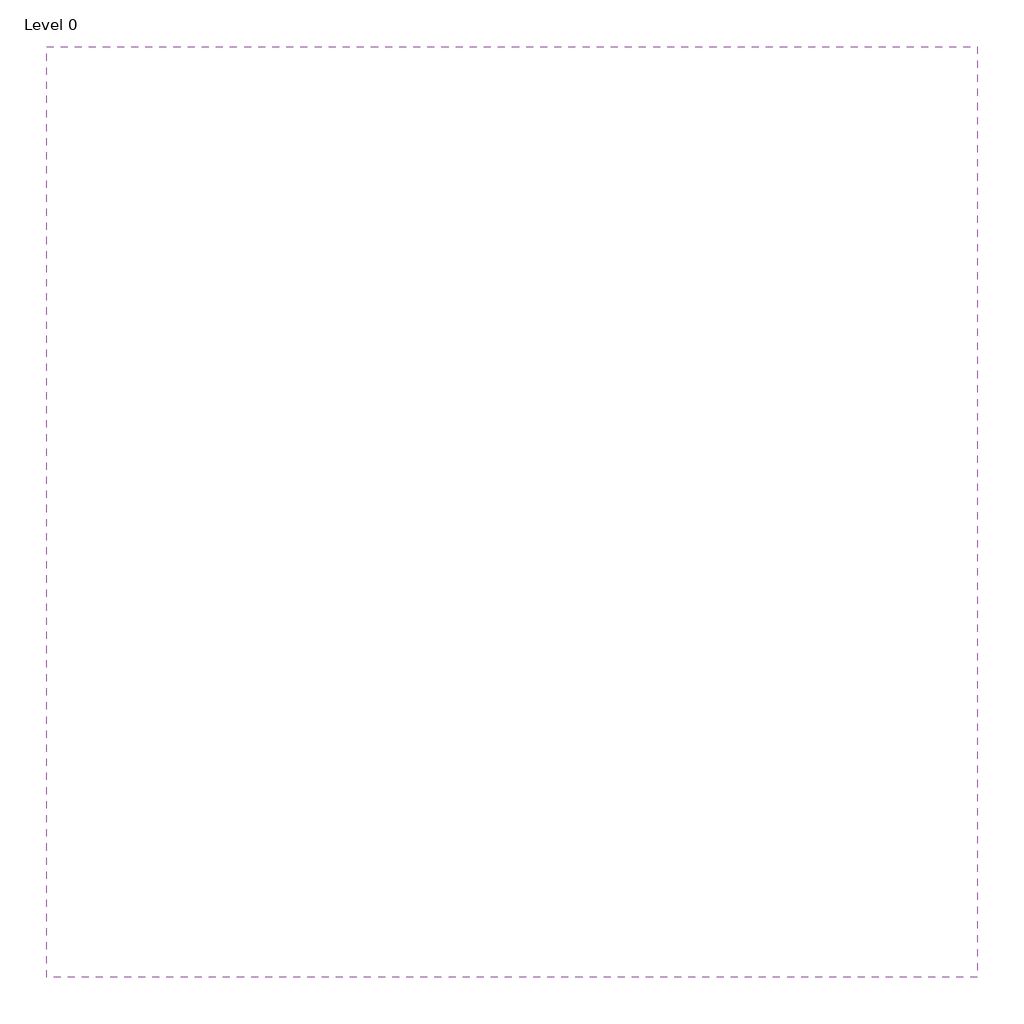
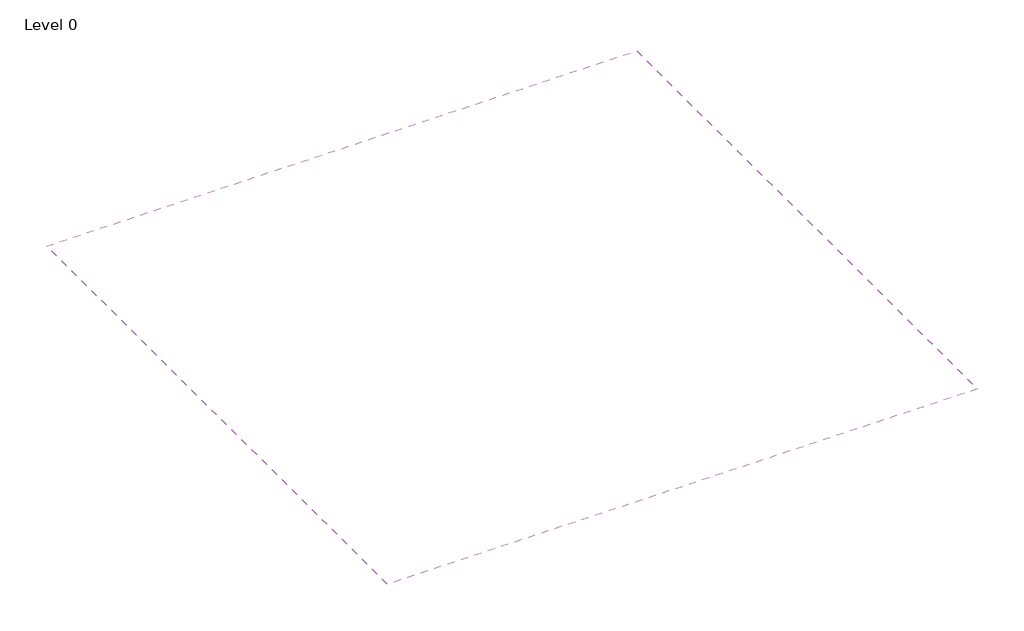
# One storey: 1 covering.
"""IFC4 building model written with IfcOpenShell, lengths in millimetres."""

from ifc_helpers import new_model, si_unit, frame, origin, place, context, project, spatial, polyline, outline, extrude, element, save

model = new_model("IFC4")

# Units and contexts
model_context = context("Model", 3, world=origin())
ifc_project = project(units=[si_unit("LENGTHUNIT", "METRE", prefix="MILLI")], contexts=[model_context])

# Site, building, storey
site = spatial("IfcSite", under=ifc_project)
building = spatial("IfcBuilding", under=site)
storey = spatial("IfcBuildingStorey", under=building, Name="Level 0", Elevation=0.0)

# Covering
placement = place(None, origin())
element("IfcCovering", 1, ObjectType="NBS_Zentia_ModularSuspendedCeilingSystems_PrestigeConceal", at=placement, inside=storey, context=model_context, shape_type="SweptSolid", body=[
    extrude(outline(polyline([(2999.979, -5003.3056342), (2999.979, -7503.3056342), (499.979, -7503.3056342), (499.979, -5003.3056342), (2999.979, -5003.3056342)])), frame((0.0, 0.0, 2600.0), z_axis=(0.0, 0.0, 1.0), x_axis=(1.0, 0.0, 0.0)), (0.0, 0.0, 1.0), 19.0),
])

save(model, "model.ifc")
